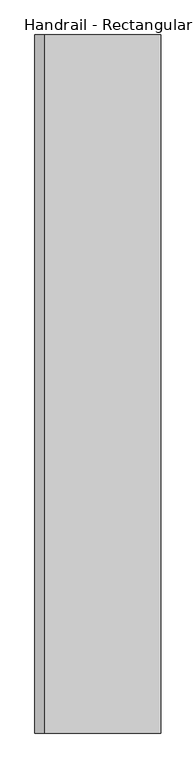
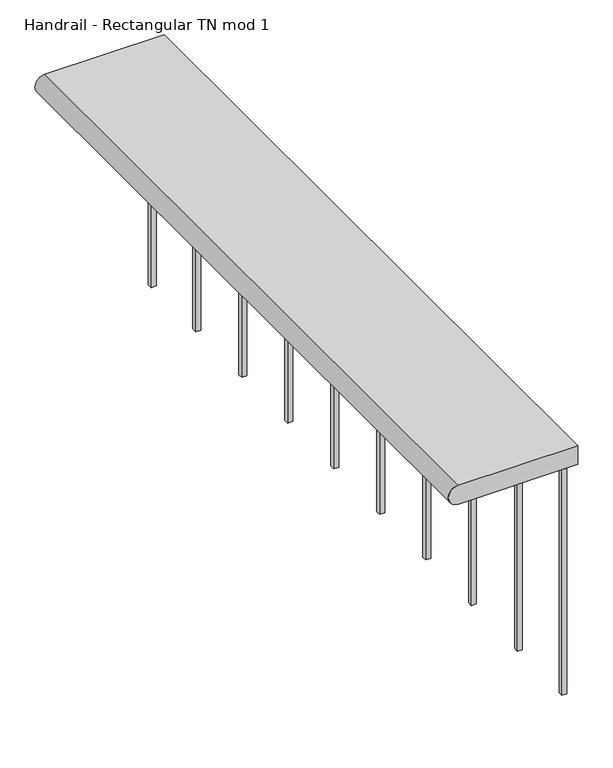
"""IFC4 building model written with IfcOpenShell, lengths in millimetres: railing geometry, Handrail - Rectangular TN mod 1."""

from ifc_helpers import new_model, si_unit, point, frame, frame_2d, origin, origin_with_axes, place, context, project, spatial, polyline, circle_curve, trimmed, segment, composite_curve, outline, extrude, source, transform, mapped, element, save


def handrail_rectangular_tn_mod_1_60d7f009(model_context):
    return source(origin(), model_context, "Body", "SweptSolid", [
        extrude(outline(composite_curve([segment(polyline([(990.6, -32265.1298117), (990.6, -32722.3298117)]), True, "CONTINUOUS"), segment(trimmed(circle_curve(frame_2d((952.5, -32722.3298117)), 38.1), [point((990.6, -32722.3298117))], [point((914.4, -32722.3298117))], False, "CARTESIAN"), True, "CONTINUOUS"), segment(polyline([(914.4, -32722.3298117), (914.4, -32265.1298117), (990.6, -32265.1298117)]), True, "CONTINUOUS")], self_intersect=False)), frame((0.0, 6058.1202437, 0.0), z_axis=(0.0, 1.0, 0.0), x_axis=(0.0, 0.0, 1.0)), (0.0, 0.0, 1.0), 2743.2),
        extrude(outline(polyline([(-32325.4548117, 6372.4452437), (-32306.4048117, 6372.4452437), (-32306.4048117, 6353.3952437), (-32325.4548117, 6353.3952437), (-32325.4548117, 6372.4452437)])), origin_with_axes(), (0.0, 0.0, 1.0), 914.4),
        extrude(outline(polyline([(-32325.4548117, 6677.2452437), (-32306.4048117, 6677.2452437), (-32306.4048117, 6658.1952437), (-32325.4548117, 6658.1952437), (-32325.4548117, 6677.2452437)])), origin_with_axes(), (0.0, 0.0, 1.0), 914.4),
        extrude(outline(polyline([(-32325.4548117, 6982.0452437), (-32306.4048117, 6982.0452437), (-32306.4048117, 6962.9952437), (-32325.4548117, 6962.9952437), (-32325.4548117, 6982.0452437)])), origin_with_axes(), (0.0, 0.0, 1.0), 914.4),
        extrude(outline(polyline([(-32325.4548117, 7286.8452437), (-32306.4048117, 7286.8452437), (-32306.4048117, 7267.7952437), (-32325.4548117, 7267.7952437), (-32325.4548117, 7286.8452437)])), origin_with_axes(), (0.0, 0.0, 1.0), 914.4),
        extrude(outline(polyline([(-32325.4548117, 7591.6452437), (-32306.4048117, 7591.6452437), (-32306.4048117, 7572.5952437), (-32325.4548117, 7572.5952437), (-32325.4548117, 7591.6452437)])), origin_with_axes(), (0.0, 0.0, 1.0), 914.4),
        extrude(outline(polyline([(-32325.4548117, 7896.4452437), (-32306.4048117, 7896.4452437), (-32306.4048117, 7877.3952437), (-32325.4548117, 7877.3952437), (-32325.4548117, 7896.4452437)])), origin_with_axes(), (0.0, 0.0, 1.0), 914.4),
        extrude(outline(polyline([(-32325.4548117, 8201.2452437), (-32306.4048117, 8201.2452437), (-32306.4048117, 8182.1952437), (-32325.4548117, 8182.1952437), (-32325.4548117, 8201.2452437)])), origin_with_axes(), (0.0, 0.0, 1.0), 914.4),
        extrude(outline(polyline([(-32325.4548117, 8506.0452437), (-32306.4048117, 8506.0452437), (-32306.4048117, 8486.9952437), (-32325.4548117, 8486.9952437), (-32325.4548117, 8506.0452437)])), origin_with_axes(), (0.0, 0.0, 1.0), 914.4),
        extrude(outline(polyline([(-32325.4548117, 6077.1702437), (-32306.4048117, 6077.1702437), (-32306.4048117, 6058.1202437), (-32325.4548117, 6058.1202437), (-32325.4548117, 6077.1702437)])), origin_with_axes(), (0.0, 0.0, 1.0), 914.4),
        extrude(outline(polyline([(-32325.4548117, 8801.3202437), (-32306.4048117, 8801.3202437), (-32306.4048117, 8782.2702437), (-32325.4548117, 8782.2702437), (-32325.4548117, 8801.3202437)])), origin_with_axes(), (0.0, 0.0, 1.0), 914.4),
    ])


if __name__ == "__main__":
    model = new_model("IFC4")
    model_context = context("Model", 3, world=origin())
    ifc_project = project(units=[si_unit("LENGTHUNIT", "METRE", prefix="MILLI")], contexts=[model_context])
    site = spatial("IfcSite", under=ifc_project)
    building = spatial("IfcBuilding", under=site)
    placement = place(None, origin())
    handrail_rectangular_tn_mod_1_shape = handrail_rectangular_tn_mod_1_60d7f009(model_context)
    element("IfcRailing", 1, ObjectType="Handrail - Rectangular TN mod 1", at=placement, inside=building, context=model_context, shape_type="MappedRepresentation", body=[
        mapped(handrail_rectangular_tn_mod_1_shape, transform((0.0, 0.0, 0.0), x_axis=(1.0, 0.0, 0.0), y_axis=(0.0, 1.0, 0.0), z_axis=(0.0, 0.0, 1.0))),
    ])
    save(model, "model.ifc")
